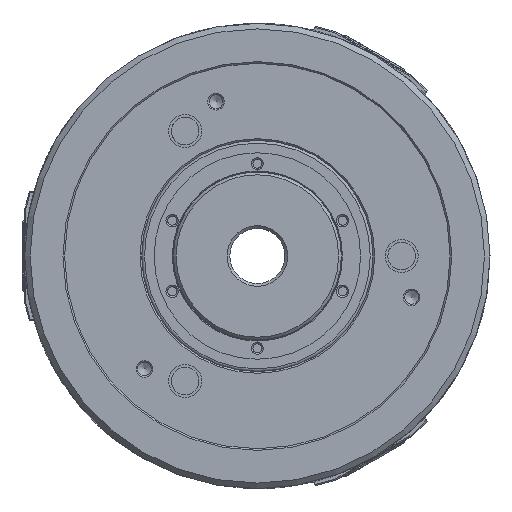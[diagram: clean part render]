
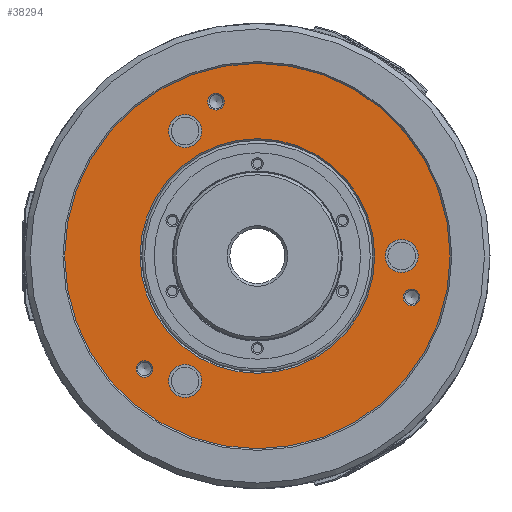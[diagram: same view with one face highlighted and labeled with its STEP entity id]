
A CAD part, left-side view. The second image highlights one B-rep face of the part: STEP entity #38294.
In plain terms, the highlighted planar face has unit normal (-1, 0, 0).
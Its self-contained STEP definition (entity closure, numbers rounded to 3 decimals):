
#1666 = VERTEX_POINT ( 'NONE', #46144 ) ;
#2355 = DIRECTION ( 'NONE',  ( 1., 0., 0. ) ) ;
#4459 = ORIENTED_EDGE ( 'NONE', *, *, #29959, .F. ) ;
#4892 = DIRECTION ( 'NONE',  ( 1., 0., 0. ) ) ;
#6059 = EDGE_CURVE ( 'NONE', #57872, #57872, #17168, .T. ) ;
#7017 = CARTESIAN_POINT ( 'NONE',  ( -80., 15.012, 59.049 ) ) ;
#7140 = DIRECTION ( 'NONE',  ( 0., 0., -1. ) ) ;
#8732 = CIRCLE ( 'NONE', #12242, 6. ) ;
#8866 = EDGE_LOOP ( 'NONE', ( #4459 ) ) ;
#8909 = DIRECTION ( 'NONE',  ( -1., 0., 0. ) ) ;
#9365 = EDGE_CURVE ( 'NONE', #60811, #60811, #20662, .T. ) ;
#9998 = EDGE_CURVE ( 'NONE', #12120, #12120, #30394, .T. ) ;
#10004 = DIRECTION ( 'NONE',  ( -1., 0., 0. ) ) ;
#11285 = DIRECTION ( 'NONE',  ( 0., 0.866, 0.5 ) ) ;
#11411 = DIRECTION ( 'NONE',  ( -1., 0., 0. ) ) ;
#11607 = CARTESIAN_POINT ( 'NONE',  ( -80., 26.2, 45.38 ) ) ;
#11643 = CARTESIAN_POINT ( 'NONE',  ( -80., 0., -42.6 ) ) ;
#12120 = VERTEX_POINT ( 'NONE', #35756 ) ;
#12242 = AXIS2_PLACEMENT_3D ( 'NONE', #25913, #59605, #11285 ) ;
#12320 = AXIS2_PLACEMENT_3D ( 'NONE', #57049, #4892, #52828 ) ;
#12755 = VERTEX_POINT ( 'NONE', #37775 ) ;
#15419 = FACE_OUTER_BOUND ( 'NONE', #34683, .T. ) ;
#16900 = FACE_BOUND ( 'NONE', #21585, .T. ) ;
#17081 = AXIS2_PLACEMENT_3D ( 'NONE', #39438, #58671, #34809 ) ;
#17168 = CIRCLE ( 'NONE', #21037, 6. ) ;
#18475 = DIRECTION ( 'NONE',  ( 0., 0., 1. ) ) ;
#19259 = EDGE_LOOP ( 'NONE', ( #61579 ) ) ;
#19522 = AXIS2_PLACEMENT_3D ( 'NONE', #43728, #10004, #33446 ) ;
#20662 = CIRCLE ( 'NONE', #19522, 3.025 ) ;
#20829 = DIRECTION ( 'NONE',  ( 0., -0.866, -0.5 ) ) ;
#21037 = AXIS2_PLACEMENT_3D ( 'NONE', #11607, #11411, #20829 ) ;
#21152 = DIRECTION ( 'NONE',  ( 0., 0., 1. ) ) ;
#21585 = EDGE_LOOP ( 'NONE', ( #57348 ) ) ;
#21798 = CARTESIAN_POINT ( 'NONE',  ( -80., 41.012, -41.012 ) ) ;
#23318 = DIRECTION ( 'NONE',  ( -1., 0., 0. ) ) ;
#23923 = DIRECTION ( 'NONE',  ( 0., 0., 1. ) ) ;
#24493 = EDGE_CURVE ( 'NONE', #39872, #39872, #60736, .T. ) ;
#25843 = EDGE_CURVE ( 'NONE', #1666, #1666, #30577, .T. ) ;
#25913 = CARTESIAN_POINT ( 'NONE',  ( -80., -52.4, 0. ) ) ;
#29331 = EDGE_LOOP ( 'NONE', ( #50034 ) ) ;
#29959 = EDGE_CURVE ( 'NONE', #56260, #56260, #45229, .T. ) ;
#30394 = CIRCLE ( 'NONE', #35267, 6. ) ;
#30467 = CARTESIAN_POINT ( 'NONE',  ( -80., 21.004, 42.38 ) ) ;
#30577 = CIRCLE ( 'NONE', #12320, 70. ) ;
#30662 = AXIS2_PLACEMENT_3D ( 'NONE', #21798, #45225, #21152 ) ;
#31515 = VERTEX_POINT ( 'NONE', #56615 ) ;
#31738 = CARTESIAN_POINT ( 'NONE',  ( -80., -56.024, -11.987 ) ) ;
#33446 = DIRECTION ( 'NONE',  ( 0., 0., 1. ) ) ;
#34683 = EDGE_LOOP ( 'NONE', ( #41475 ) ) ;
#34809 = DIRECTION ( 'NONE',  ( 0., 0., 1. ) ) ;
#35267 = AXIS2_PLACEMENT_3D ( 'NONE', #61237, #8909, #18475 ) ;
#35643 = FACE_BOUND ( 'NONE', #55417, .T. ) ;
#35756 = CARTESIAN_POINT ( 'NONE',  ( -80., 26.2, -39.38 ) ) ;
#35856 = AXIS2_PLACEMENT_3D ( 'NONE', #61572, #23318, #23923 ) ;
#36934 = EDGE_LOOP ( 'NONE', ( #55021 ) ) ;
#37274 = EDGE_LOOP ( 'NONE', ( #48330 ) ) ;
#37775 = CARTESIAN_POINT ( 'NONE',  ( -80., -47.204, 3. ) ) ;
#38294 = ADVANCED_FACE ( 'NONE', ( #53637, #58866, #46109, #35643, #15419, #16900, #38613, #50646 ), #57840, .T. ) ;
#38613 = FACE_BOUND ( 'NONE', #19259, .T. ) ;
#39438 = CARTESIAN_POINT ( 'NONE',  ( -80., 35., -60.622 ) ) ;
#39872 = VERTEX_POINT ( 'NONE', #11643 ) ;
#41475 = ORIENTED_EDGE ( 'NONE', *, *, #25843, .F. ) ;
#43728 = CARTESIAN_POINT ( 'NONE',  ( -80., 15.012, 56.024 ) ) ;
#45225 = DIRECTION ( 'NONE',  ( -1., 0., 0. ) ) ;
#45229 = CIRCLE ( 'NONE', #35856, 3.025 ) ;
#46109 = FACE_BOUND ( 'NONE', #36934, .T. ) ;
#46144 = CARTESIAN_POINT ( 'NONE',  ( -80., 0., -70. ) ) ;
#46323 = AXIS2_PLACEMENT_3D ( 'NONE', #59895, #2355, #7140 ) ;
#48330 = ORIENTED_EDGE ( 'NONE', *, *, #9998, .F. ) ;
#50034 = ORIENTED_EDGE ( 'NONE', *, *, #9365, .F. ) ;
#50646 = FACE_BOUND ( 'NONE', #37274, .T. ) ;
#52828 = DIRECTION ( 'NONE',  ( 0., 0., -1. ) ) ;
#53609 = CIRCLE ( 'NONE', #30662, 3.025 ) ;
#53637 = FACE_BOUND ( 'NONE', #29331, .T. ) ;
#55018 = EDGE_CURVE ( 'NONE', #31515, #31515, #53609, .T. ) ;
#55021 = ORIENTED_EDGE ( 'NONE', *, *, #55018, .F. ) ;
#55157 = ORIENTED_EDGE ( 'NONE', *, *, #24493, .T. ) ;
#55417 = EDGE_LOOP ( 'NONE', ( #55157 ) ) ;
#56260 = VERTEX_POINT ( 'NONE', #31738 ) ;
#56615 = CARTESIAN_POINT ( 'NONE',  ( -80., 41.012, -37.987 ) ) ;
#57049 = CARTESIAN_POINT ( 'NONE',  ( -80., 0., 0. ) ) ;
#57348 = ORIENTED_EDGE ( 'NONE', *, *, #59876, .T. ) ;
#57840 = PLANE ( 'NONE',  #17081 ) ;
#57872 = VERTEX_POINT ( 'NONE', #30467 ) ;
#58671 = DIRECTION ( 'NONE',  ( -1., 0., 0. ) ) ;
#58866 = FACE_BOUND ( 'NONE', #8866, .T. ) ;
#59605 = DIRECTION ( 'NONE',  ( 1., 0., 0. ) ) ;
#59876 = EDGE_CURVE ( 'NONE', #12755, #12755, #8732, .T. ) ;
#59895 = CARTESIAN_POINT ( 'NONE',  ( -80., 0., 0. ) ) ;
#60736 = CIRCLE ( 'NONE', #46323, 42.6 ) ;
#60811 = VERTEX_POINT ( 'NONE', #7017 ) ;
#61237 = CARTESIAN_POINT ( 'NONE',  ( -80., 26.2, -45.38 ) ) ;
#61572 = CARTESIAN_POINT ( 'NONE',  ( -80., -56.024, -15.012 ) ) ;
#61579 = ORIENTED_EDGE ( 'NONE', *, *, #6059, .F. ) ;
